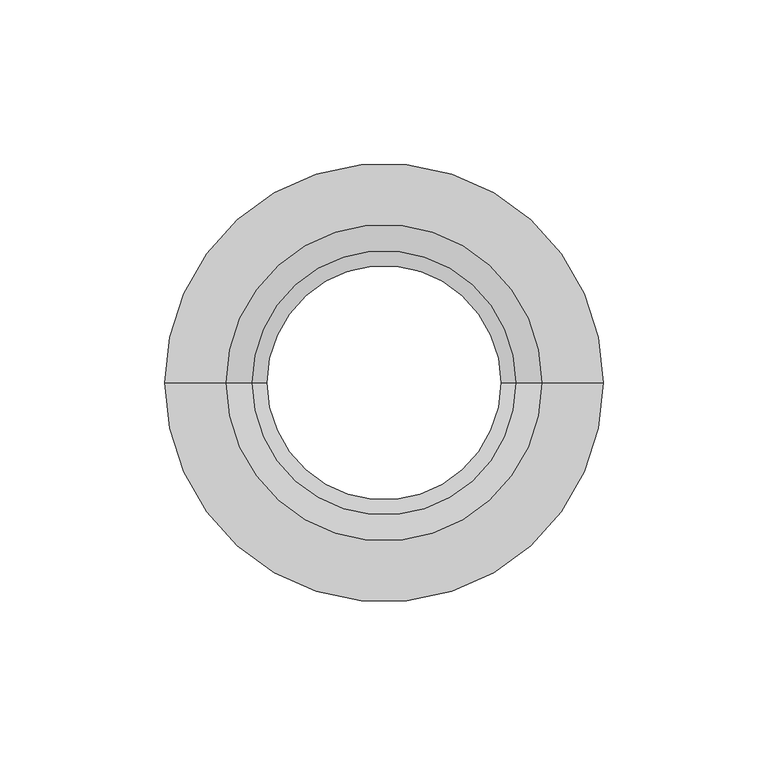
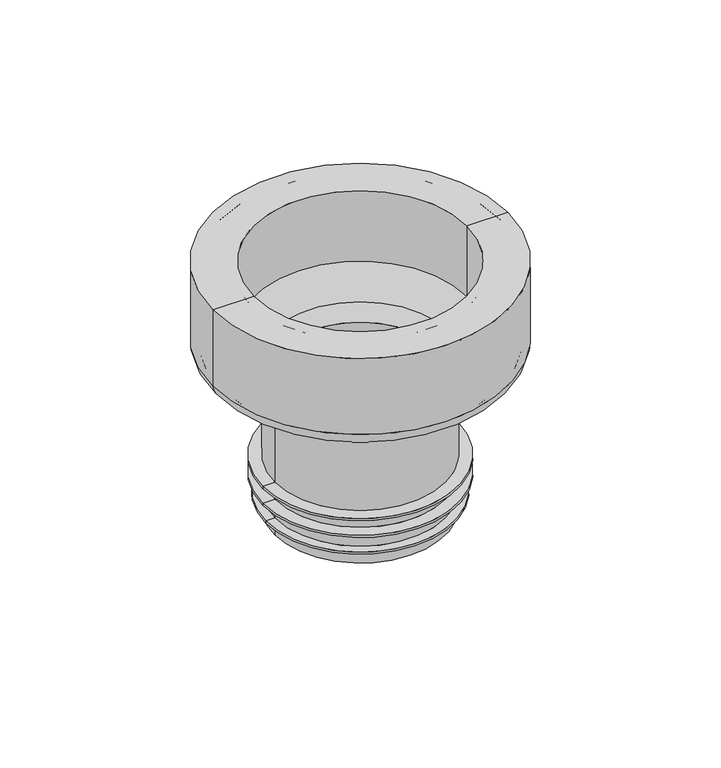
"""IFC4 building model written with IfcOpenShell, lengths in millimetres: sanitary terminal geometry, RSen_52_PIF_UN_closet connector no.3b w_wisa : closet connector_wisa_no 3b w white."""

from ifc_helpers import new_model, si_unit, point, frame, origin, origin_with_axes, place, context, project, spatial, polyline, circle_curve, ellipse_curve, trimmed, source, transform, mapped, element, save
from ifc_brep_helpers import plane_surface, cylinder_surface, revolved_surface, advanced_brep


def sanitary_terminal_0738ec00(model_context):
    return source(origin(), model_context, "Body", "AdvancedBrep", [
        advanced_brep(
        [(-42.5, 0.0, -110.0), (42.5, 0.0, -110.0), (38.5, 0.0, -110.0), (-38.5, 0.0, -110.0), (-42.5, 0.0, -109.0), (42.5, 0.0, -109.0), (-38.5, 0.0, -109.0), (38.5, 0.0, -109.0), (-38.5, 0.0, -101.0), (38.5, 0.0, -101.0), (-44.0, 0.0, -101.0), (44.0, 0.0, -101.0), (-44.0, 0.0, -100.0363869), (44.0, 0.0, -100.0363869), (-38.5, 0.0, -100.0363869), (38.5, 0.0, -100.0363869), (-38.5, 0.0, -93.0363869), (38.5, 0.0, -93.0363869), (-44.0, 0.0, -93.0363869), (44.0, 0.0, -93.0363869), (-44.0, 0.0, -92.0409026), (44.0, 0.0, -92.0409026), (-38.5, 0.0, -92.0409026), (38.5, 0.0, -92.0409026), (-38.5, 0.0, -54.1016603), (38.5, 0.0, -54.1016603), (-66.5, 0.0, 0.0), (66.5, 0.0, 0.0), (66.5, 0.0, -36.2082108), (-66.5, 0.0, -36.2082108), (-48.0, 0.0, 0.0), (48.0, 0.0, 0.0), (-48.0, 0.0, -33.6916513), (48.0, 0.0, -33.6916513), (-50.0, 0.0, -33.6916513), (50.0, 0.0, -33.6916513), (-50.0, 0.0, -3.5), (50.0, 0.0, -3.5), (-51.5, 0.0, -2.0), (51.5, 0.0, -2.0), (-62.0, 0.0, -2.0), (62.0, 0.0, -2.0), (-38.5, 0.0, -117.0), (38.5, 0.0, -117.0), (35.5250795, 0.0, -117.0), (-35.5250795, 0.0, -117.0), (-41.1319194, 0.0, -50.3428898), (41.1319194, 0.0, -50.3428898), (-61.894141, 0.0, -42.7860592), (61.894141, 0.0, -42.7860592), (-63.5, 0.0, -3.5), (63.5, 0.0, -3.5), (-63.5, 0.0, -36.2082108), (63.5, 0.0, -36.2082108), (-60.8680806, 0.0, -39.9669813), (60.8680806, 0.0, -39.9669813), (-40.1309385, 0.0, -47.5146838), (40.1309385, 0.0, -47.5146838), (-35.5250795, 0.0, -54.0925321), (35.5250795, 0.0, -54.0925321)],
        [
            (0, 1, circle_curve(frame((0.0, 0.0, -110.0), z_axis=(0.0, 0.0, -1.0), x_axis=(1.0, 0.0, 0.0)), 42.5)),
            (1, 2),
            (2, 3, circle_curve(frame((0.0, 0.0, -110.0), z_axis=(0.0, 0.0, 1.0), x_axis=(1.0, 0.0, 0.0)), 38.5)),
            (3, 0),
            (1, 0, circle_curve(frame((0.0, 0.0, -110.0), z_axis=(0.0, 0.0, -1.0), x_axis=(1.0, 0.0, 0.0)), 42.5)),
            (3, 2, circle_curve(frame((0.0, 0.0, -110.0), z_axis=(0.0, 0.0, 1.0), x_axis=(1.0, 0.0, 0.0)), 38.5)),
            (4, 5, circle_curve(frame((0.0, 0.0, -109.0), z_axis=(0.0, 0.0, -1.0), x_axis=(1.0, 0.0, 0.0)), 42.5)),
            (5, 1),
            (0, 4),
            (5, 4, circle_curve(frame((0.0, 0.0, -109.0), z_axis=(0.0, 0.0, -1.0), x_axis=(1.0, 0.0, 0.0)), 42.5)),
            (6, 7, circle_curve(frame((0.0, 0.0, -109.0), z_axis=(0.0, 0.0, -1.0), x_axis=(1.0, 0.0, 0.0)), 38.5)),
            (7, 5),
            (4, 6),
            (7, 6, circle_curve(frame((0.0, 0.0, -109.0), z_axis=(0.0, 0.0, -1.0), x_axis=(1.0, 0.0, 0.0)), 38.5)),
            (8, 9, circle_curve(frame((0.0, 0.0, -101.0), z_axis=(0.0, 0.0, -1.0), x_axis=(1.0, 0.0, 0.0)), 38.5)),
            (9, 7),
            (6, 8),
            (9, 8, circle_curve(frame((0.0, 0.0, -101.0), z_axis=(0.0, 0.0, -1.0), x_axis=(1.0, 0.0, 0.0)), 38.5)),
            (10, 11, circle_curve(frame((0.0, 0.0, -101.0), z_axis=(0.0, 0.0, -1.0), x_axis=(1.0, 0.0, 0.0)), 44.0)),
            (11, 9),
            (8, 10),
            (11, 10, circle_curve(frame((0.0, 0.0, -101.0), z_axis=(0.0, 0.0, -1.0), x_axis=(1.0, 0.0, 0.0)), 44.0)),
            (12, 13, circle_curve(frame((0.0, 0.0, -100.0363869), z_axis=(0.0, 0.0, -1.0), x_axis=(1.0, 0.0, 0.0)), 44.0)),
            (13, 11),
            (10, 12),
            (13, 12, circle_curve(frame((0.0, 0.0, -100.0363869), z_axis=(0.0, 0.0, -1.0), x_axis=(1.0, 0.0, 0.0)), 44.0)),
            (14, 15, circle_curve(frame((0.0, 0.0, -100.0363869), z_axis=(0.0, 0.0, -1.0), x_axis=(1.0, 0.0, 0.0)), 38.5)),
            (15, 13),
            (12, 14),
            (15, 14, circle_curve(frame((0.0, 0.0, -100.0363869), z_axis=(0.0, 0.0, -1.0), x_axis=(1.0, 0.0, 0.0)), 38.5)),
            (16, 17, circle_curve(frame((0.0, 0.0, -93.0363869), z_axis=(0.0, 0.0, -1.0), x_axis=(1.0, 0.0, 0.0)), 38.5)),
            (17, 15),
            (14, 16),
            (17, 16, circle_curve(frame((0.0, 0.0, -93.0363869), z_axis=(0.0, 0.0, -1.0), x_axis=(1.0, 0.0, 0.0)), 38.5)),
            (18, 19, circle_curve(frame((0.0, 0.0, -93.0363869), z_axis=(0.0, 0.0, -1.0), x_axis=(1.0, 0.0, 0.0)), 44.0)),
            (19, 17),
            (16, 18),
            (19, 18, circle_curve(frame((0.0, 0.0, -93.0363869), z_axis=(0.0, 0.0, -1.0), x_axis=(1.0, 0.0, 0.0)), 44.0)),
            (20, 21, circle_curve(frame((0.0, 0.0, -92.0409026), z_axis=(0.0, 0.0, -1.0), x_axis=(1.0, 0.0, 0.0)), 44.0)),
            (21, 19),
            (18, 20),
            (21, 20, circle_curve(frame((0.0, 0.0, -92.0409026), z_axis=(0.0, 0.0, -1.0), x_axis=(1.0, 0.0, 0.0)), 44.0)),
            (22, 23, circle_curve(frame((0.0, 0.0, -92.0409026), z_axis=(0.0, 0.0, -1.0), x_axis=(1.0, 0.0, 0.0)), 38.5)),
            (23, 21),
            (20, 22),
            (23, 22, circle_curve(frame((0.0, 0.0, -92.0409026), z_axis=(0.0, 0.0, -1.0), x_axis=(1.0, 0.0, 0.0)), 38.5)),
            (24, 25, circle_curve(frame((0.0, 0.0, -54.1016603), z_axis=(0.0, 0.0, -1.0), x_axis=(1.0, 0.0, 0.0)), 38.5)),
            (25, 23),
            (22, 24),
            (25, 24, circle_curve(frame((0.0, 0.0, -54.1016603), z_axis=(0.0, 0.0, -1.0), x_axis=(1.0, 0.0, 0.0)), 38.5)),
            (26, 27, circle_curve(frame((0.0, 0.0, 0.0), z_axis=(0.0, 0.0, -1.0), x_axis=(1.0, 0.0, 0.0)), 66.5)),
            (27, 28),
            (28, 29, circle_curve(frame((0.0, 0.0, -36.2082108), z_axis=(0.0, 0.0, 1.0), x_axis=(1.0, 0.0, 0.0)), 66.5)),
            (29, 26),
            (27, 26, circle_curve(frame((0.0, 0.0, 0.0), z_axis=(0.0, 0.0, -1.0), x_axis=(1.0, 0.0, 0.0)), 66.5)),
            (29, 28, circle_curve(frame((0.0, 0.0, -36.2082108), z_axis=(0.0, 0.0, 1.0), x_axis=(1.0, 0.0, 0.0)), 66.5)),
            (30, 31, circle_curve(frame((0.0, 0.0, 0.0), z_axis=(0.0, 0.0, -1.0), x_axis=(1.0, 0.0, 0.0)), 48.0)),
            (31, 27),
            (26, 30),
            (31, 30, circle_curve(frame((0.0, 0.0, 0.0), z_axis=(0.0, 0.0, -1.0), x_axis=(1.0, 0.0, 0.0)), 48.0)),
            (32, 33, circle_curve(frame((0.0, 0.0, -33.6916513), z_axis=(0.0, 0.0, -1.0), x_axis=(1.0, 0.0, 0.0)), 48.0)),
            (33, 31),
            (30, 32),
            (33, 32, circle_curve(frame((0.0, 0.0, -33.6916513), z_axis=(0.0, 0.0, -1.0), x_axis=(1.0, 0.0, 0.0)), 48.0)),
            (34, 35, circle_curve(frame((0.0, 0.0, -33.6916513), z_axis=(0.0, 0.0, -1.0), x_axis=(1.0, 0.0, 0.0)), 50.0)),
            (35, 33),
            (32, 34),
            (35, 34, circle_curve(frame((0.0, 0.0, -33.6916513), z_axis=(0.0, 0.0, -1.0), x_axis=(1.0, 0.0, 0.0)), 50.0)),
            (36, 37, circle_curve(frame((0.0, 0.0, -3.5), z_axis=(0.0, 0.0, -1.0), x_axis=(1.0, 0.0, 0.0)), 50.0)),
            (37, 35),
            (34, 36),
            (37, 36, circle_curve(frame((0.0, 0.0, -3.5), z_axis=(0.0, 0.0, -1.0), x_axis=(1.0, 0.0, 0.0)), 50.0)),
            (38, 39, circle_curve(frame((0.0, 0.0, -2.0), z_axis=(0.0, 0.0, -1.0), x_axis=(1.0, 0.0, 0.0)), 51.5)),
            (39, 37, circle_curve(frame((51.5, 0.0, -3.5), z_axis=(0.0, -1.0, 0.0), x_axis=(1.0, 0.0, 0.0)), 1.5)),
            (36, 38, circle_curve(frame((-51.5, 0.0, -3.5), z_axis=(0.0, -1.0, 0.0), x_axis=(-1.0, 0.0, 0.0)), 1.5)),
            (39, 38, circle_curve(frame((0.0, 0.0, -2.0), z_axis=(0.0, 0.0, -1.0), x_axis=(1.0, 0.0, 0.0)), 51.5)),
            (40, 41, circle_curve(frame((0.0, 0.0, -2.0), z_axis=(0.0, 0.0, -1.0), x_axis=(1.0, 0.0, 0.0)), 62.0)),
            (41, 39),
            (38, 40),
            (41, 40, circle_curve(frame((0.0, 0.0, -2.0), z_axis=(0.0, 0.0, -1.0), x_axis=(1.0, 0.0, 0.0)), 62.0)),
            (42, 43, circle_curve(frame((0.0, 0.0, -117.0), z_axis=(0.0, 0.0, -1.0), x_axis=(1.0, 0.0, 0.0)), 38.5)),
            (43, 44),
            (44, 45, circle_curve(frame((0.0, 0.0, -117.0), z_axis=(0.0, 0.0, 1.0), x_axis=(1.0, 0.0, 0.0)), 35.5250795)),
            (45, 42),
            (43, 42, circle_curve(frame((0.0, 0.0, -117.0), z_axis=(0.0, 0.0, -1.0), x_axis=(1.0, 0.0, 0.0)), 38.5)),
            (45, 44, circle_curve(frame((0.0, 0.0, -117.0), z_axis=(0.0, 0.0, 1.0), x_axis=(1.0, 0.0, 0.0)), 35.5250795)),
            (2, 43),
            (42, 3),
            (46, 47, circle_curve(frame((0.0, 0.0, -50.3428898), z_axis=(0.0, 0.0, -1.0), x_axis=(1.0, 0.0, 0.0)), 41.1319194)),
            (47, 25, circle_curve(frame((42.5, 0.0, -54.1016603), z_axis=(0.0, -1.0, 0.0), x_axis=(1.0, 0.0, 0.0)), 4.0)),
            (24, 46, circle_curve(frame((-42.5, 0.0, -54.1016603), z_axis=(0.0, -1.0, 0.0), x_axis=(-1.0, 0.0, 0.0)), 4.0)),
            (47, 46, circle_curve(frame((0.0, 0.0, -50.3428898), z_axis=(0.0, 0.0, -1.0), x_axis=(1.0, 0.0, 0.0)), 41.1319194)),
            (48, 49, circle_curve(frame((0.0, 0.0, -42.7860592), z_axis=(0.0, 0.0, -1.0), x_axis=(1.0, 0.0, 0.0)), 61.894141)),
            (49, 47),
            (46, 48),
            (49, 48, circle_curve(frame((0.0, 0.0, -42.7860592), z_axis=(0.0, 0.0, -1.0), x_axis=(1.0, 0.0, 0.0)), 61.894141)),
            (28, 49, circle_curve(frame((59.5, 0.0, -36.2082108), z_axis=(0.0, 1.0, 0.0), x_axis=(1.0, 0.0, 0.0)), 7.0)),
            (48, 29, circle_curve(frame((-59.5, 0.0, -36.2082108), z_axis=(0.0, 1.0, 0.0), x_axis=(-1.0, 0.0, 0.0)), 7.0)),
            (50, 51, circle_curve(frame((0.0, 0.0, -3.5), z_axis=(0.0, 0.0, -1.0), x_axis=(1.0, 0.0, 0.0)), 63.5)),
            (51, 41, circle_curve(frame((62.0, 0.0, -3.5), z_axis=(0.0, -1.0, 0.0), x_axis=(1.0, 0.0, 0.0)), 1.5)),
            (40, 50, circle_curve(frame((-62.0, 0.0, -3.5), z_axis=(0.0, -1.0, 0.0), x_axis=(-1.0, 0.0, 0.0)), 1.5)),
            (51, 50, circle_curve(frame((0.0, 0.0, -3.5), z_axis=(0.0, 0.0, -1.0), x_axis=(1.0, 0.0, 0.0)), 63.5)),
            (52, 53, circle_curve(frame((0.0, 0.0, -36.2082108), z_axis=(0.0, 0.0, -1.0), x_axis=(1.0, 0.0, 0.0)), 63.5)),
            (53, 51),
            (50, 52),
            (53, 52, circle_curve(frame((0.0, 0.0, -36.2082108), z_axis=(0.0, 0.0, -1.0), x_axis=(1.0, 0.0, 0.0)), 63.5)),
            (54, 55, circle_curve(frame((0.0, 0.0, -39.9669813), z_axis=(0.0, 0.0, -1.0), x_axis=(1.0, 0.0, 0.0)), 60.8680806)),
            (55, 53, circle_curve(frame((59.5, 0.0, -36.2082108), z_axis=(0.0, -1.0, 0.0), x_axis=(1.0, 0.0, 0.0)), 4.0)),
            (52, 54, circle_curve(frame((-59.5, 0.0, -36.2082108), z_axis=(0.0, -1.0, 0.0), x_axis=(-1.0, 0.0, 0.0)), 4.0)),
            (55, 54, circle_curve(frame((0.0, 0.0, -39.9669813), z_axis=(0.0, 0.0, -1.0), x_axis=(1.0, 0.0, 0.0)), 60.8680806)),
            (56, 57, circle_curve(frame((0.0, 0.0, -47.5146838), z_axis=(0.0, 0.0, -1.0), x_axis=(1.0, 0.0, 0.0)), 40.1309385)),
            (57, 55),
            (54, 56),
            (57, 56, circle_curve(frame((0.0, 0.0, -47.5146838), z_axis=(0.0, 0.0, -1.0), x_axis=(1.0, 0.0, 0.0)), 40.1309385)),
            (58, 59, circle_curve(frame((0.0, 0.0, -54.0925321), z_axis=(0.0, 0.0, -1.0), x_axis=(1.0, 0.0, 0.0)), 35.5250795)),
            (59, 57, circle_curve(frame((42.5250795, 0.0, -54.0925321), z_axis=(0.0, 1.0, 0.0), x_axis=(1.0, 0.0, 0.0)), 7.0)),
            (56, 58, circle_curve(frame((-42.5250795, 0.0, -54.0925321), z_axis=(0.0, 1.0, 0.0), x_axis=(-1.0, 0.0, 0.0)), 7.0)),
            (59, 58, circle_curve(frame((0.0, 0.0, -54.0925321), z_axis=(0.0, 0.0, -1.0), x_axis=(1.0, 0.0, 0.0)), 35.5250795)),
            (44, 59),
            (58, 45),
        ],
        [
            plane_surface(frame((0.0, 0.0, -110.0), z_axis=(0.0, 0.0, -1.0), x_axis=(1.0, 0.0, 0.0))),
            cylinder_surface(frame((0.0, 0.0, 150.0), z_axis=(0.0, 0.0, 1.0), x_axis=(1.0, 0.0, 0.0)), 42.5),
            plane_surface(frame((0.0, 0.0, -109.0), z_axis=(0.0, 0.0, 1.0), x_axis=(1.0, 0.0, 0.0))),
            cylinder_surface(frame((0.0, 0.0, 150.0), z_axis=(0.0, 0.0, 1.0), x_axis=(1.0, 0.0, 0.0)), 38.5),
            plane_surface(frame((0.0, 0.0, -101.0), z_axis=(0.0, 0.0, -1.0), x_axis=(1.0, 0.0, 0.0))),
            cylinder_surface(frame((0.0, 0.0, 150.0), z_axis=(0.0, 0.0, 1.0), x_axis=(1.0, 0.0, 0.0)), 44.0),
            plane_surface(frame((0.0, 0.0, -100.0363869), z_axis=(0.0, 0.0, 1.0), x_axis=(1.0, 0.0, 0.0))),
            plane_surface(frame((0.0, 0.0, -93.0363869), z_axis=(0.0, 0.0, -1.0), x_axis=(1.0, 0.0, 0.0))),
            plane_surface(frame((0.0, 0.0, -92.0409026), z_axis=(0.0, 0.0, 1.0), x_axis=(1.0, 0.0, 0.0))),
            cylinder_surface(frame((0.0, 0.0, 150.0), z_axis=(0.0, 0.0, 1.0), x_axis=(1.0, 0.0, 0.0)), 66.5),
            plane_surface(origin_with_axes()),
            revolved_surface(polyline([(48.0, 0.0, 0.0), (48.0, 0.0, -33.69165129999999)]), (0.0, 0.0, 150.0), (0.0, 0.0, 1.0)),
            plane_surface(frame((0.0, 0.0, -33.6916513), z_axis=(0.0, 0.0, -1.0), x_axis=(1.0, 0.0, 0.0))),
            cylinder_surface(frame((0.0, 0.0, 150.0), z_axis=(0.0, 0.0, 1.0), x_axis=(1.0, 0.0, 0.0)), 50.0),
            revolved_surface(trimmed(ellipse_curve(frame((51.5, 0.0, -3.5), z_axis=(0.0, 1.0, 0.0), x_axis=(1.0, 0.0, 0.0)), 1.5, 1.5), [point((50.0, 0.0, -3.5))], [point((51.5, 0.0, -2.0))], True, "CARTESIAN"), (0.0, 0.0, 150.0), (0.0, 0.0, 1.0)),
            plane_surface(frame((0.0, 0.0, -2.0), z_axis=(0.0, 0.0, -1.0), x_axis=(1.0, 0.0, 0.0))),
            plane_surface(frame((0.0, 0.0, -117.0), z_axis=(0.0, 0.0, -1.0), x_axis=(1.0, 0.0, 0.0))),
            revolved_surface(trimmed(ellipse_curve(frame((42.5, 0.0, -54.1016603), z_axis=(0.0, 1.0, 0.0), x_axis=(1.0, 0.0, 0.0)), 4.0, 4.0), [point((38.5, 0.0, -54.1016603))], [point((41.1319194, 0.0, -50.3428898))], True, "CARTESIAN"), (0.0, 0.0, 150.0), (0.0, 0.0, 1.0)),
            revolved_surface(polyline([(41.1319194, 0.0, -50.3428898), (61.894141, 0.0, -42.7860592)]), (0.0, 0.0, 150.0), (0.0, 0.0, 1.0)),
            revolved_surface(trimmed(ellipse_curve(frame((59.5, 0.0, -36.2082108), z_axis=(0.0, -1.0, 0.0), x_axis=(1.0, 0.0, 0.0)), 7.0, 7.0), [point((61.894141, 0.0, -42.7860592))], [point((66.5, 0.0, -36.2082108))], True, "CARTESIAN"), (0.0, 0.0, 150.0), (0.0, 0.0, 1.0)),
            revolved_surface(trimmed(ellipse_curve(frame((62.0, 0.0, -3.5), z_axis=(0.0, 1.0, 0.0), x_axis=(1.0, 0.0, 0.0)), 1.5, 1.5), [point((62.0, 0.0, -2.0))], [point((63.5, 0.0, -3.5))], True, "CARTESIAN"), (0.0, 0.0, 150.0), (0.0, 0.0, 1.0)),
            revolved_surface(polyline([(63.5, 0.0, -3.5), (63.5, 0.0, -36.20821080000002)]), (0.0, 0.0, 150.0), (0.0, 0.0, 1.0)),
            revolved_surface(trimmed(ellipse_curve(frame((59.5, 0.0, -36.2082108), z_axis=(0.0, 1.0, 0.0), x_axis=(1.0, 0.0, 0.0)), 4.0, 4.0), [point((63.5, 0.0, -36.2082108))], [point((60.8680806, 0.0, -39.9669813))], True, "CARTESIAN"), (0.0, 0.0, 150.0), (0.0, 0.0, 1.0)),
            revolved_surface(polyline([(60.8680806, 0.0, -39.9669813), (40.1309385, 0.0, -47.5146838)]), (0.0, 0.0, 150.0), (0.0, 0.0, 1.0)),
            revolved_surface(trimmed(ellipse_curve(frame((42.5250795, 0.0, -54.0925321), z_axis=(0.0, -1.0, 0.0), x_axis=(1.0, 0.0, 0.0)), 7.0, 7.0), [point((40.1309385, 0.0, -47.5146838))], [point((35.5250795, 0.0, -54.0925321))], True, "CARTESIAN"), (0.0, 0.0, 150.0), (0.0, 0.0, 1.0)),
            revolved_surface(polyline([(35.5250795, 0.0, -54.0925321), (35.5250795, 0.0, -117.0)]), (0.0, 0.0, 150.0), (0.0, 0.0, 1.0)),
        ],
        [
            (0, [[1, 2, 3, 4]]),
            (0, [[5, -4, 6, -2]]),
            (1, [[7, 8, -1, 9]]),
            (1, [[10, -9, -5, -8]]),
            (2, [[11, 12, -7, 13]]),
            (2, [[14, -13, -10, -12]]),
            (3, [[15, 16, -11, 17]]),
            (3, [[18, -17, -14, -16]]),
            (4, [[19, 20, -15, 21]]),
            (4, [[22, -21, -18, -20]]),
            (5, [[23, 24, -19, 25]]),
            (5, [[26, -25, -22, -24]]),
            (6, [[27, 28, -23, 29]]),
            (6, [[30, -29, -26, -28]]),
            (3, [[31, 32, -27, 33]]),
            (3, [[34, -33, -30, -32]]),
            (7, [[35, 36, -31, 37]]),
            (7, [[38, -37, -34, -36]]),
            (5, [[39, 40, -35, 41]]),
            (5, [[42, -41, -38, -40]]),
            (8, [[43, 44, -39, 45]]),
            (8, [[46, -45, -42, -44]]),
            (3, [[47, 48, -43, 49]]),
            (3, [[50, -49, -46, -48]]),
            (9, [[51, 52, 53, 54]]),
            (9, [[55, -54, 56, -52]]),
            (10, [[57, 58, -51, 59]]),
            (10, [[60, -59, -55, -58]]),
            (11, [[61, 62, -57, 63]]),
            (11, [[64, -63, -60, -62]]),
            (12, [[65, 66, -61, 67]]),
            (12, [[68, -67, -64, -66]]),
            (13, [[69, 70, -65, 71]]),
            (13, [[72, -71, -68, -70]]),
            (14, [[73, 74, -69, 75]]),
            (14, [[76, -75, -72, -74]]),
            (15, [[77, 78, -73, 79]]),
            (15, [[80, -79, -76, -78]]),
            (16, [[81, 82, 83, 84]]),
            (16, [[85, -84, 86, -82]]),
            (3, [[-3, 87, -81, 88]]),
            (3, [[-6, -88, -85, -87]]),
            (17, [[89, 90, -47, 91]]),
            (17, [[92, -91, -50, -90]]),
            (18, [[93, 94, -89, 95]]),
            (18, [[96, -95, -92, -94]]),
            (19, [[-53, 97, -93, 98]]),
            (19, [[-56, -98, -96, -97]]),
            (20, [[99, 100, -77, 101]]),
            (20, [[102, -101, -80, -100]]),
            (21, [[103, 104, -99, 105]]),
            (21, [[106, -105, -102, -104]]),
            (22, [[107, 108, -103, 109]]),
            (22, [[110, -109, -106, -108]]),
            (23, [[111, 112, -107, 113]]),
            (23, [[114, -113, -110, -112]]),
            (24, [[115, 116, -111, 117]]),
            (24, [[118, -117, -114, -116]]),
            (25, [[-83, 119, -115, 120]]),
            (25, [[-86, -120, -118, -119]]),
        ],
    ),
    ])


if __name__ == "__main__":
    model = new_model("IFC4")
    model_context = context("Model", 3, world=origin())
    ifc_project = project(units=[si_unit("LENGTHUNIT", "METRE", prefix="MILLI")], contexts=[model_context])
    site = spatial("IfcSite", under=ifc_project)
    building = spatial("IfcBuilding", under=site)
    placement = place(None, origin())
    sanitary_terminal_shape = sanitary_terminal_0738ec00(model_context)
    element("IfcSanitaryTerminal", 1, ObjectType="RSen_52_PIF_UN_closet connector no.3b w_wisa : closet connector_wisa_no 3b w white", at=placement, inside=building, context=model_context, shape_type="MappedRepresentation", body=[
        mapped(sanitary_terminal_shape, transform((0.0, 0.0, 0.0), x_axis=(1.0, 0.0, 0.0), y_axis=(0.0, 1.0, 0.0), z_axis=(0.0, 0.0, 1.0))),
    ])
    save(model, "model.ifc")
